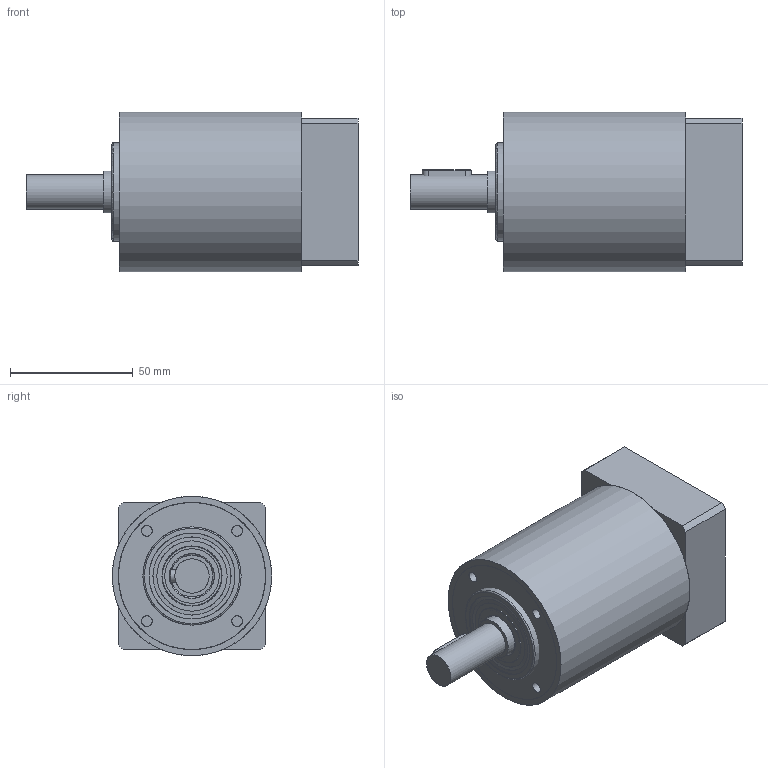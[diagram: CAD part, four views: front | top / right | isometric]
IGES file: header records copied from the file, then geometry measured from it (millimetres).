
Global section: file name: D:\ASSYCONF\WORK_DIRS\TEMP_#8\E00017964713MP040509092319_iges3D.igs; native system: NX V5.0; preprocessor: UGS NX IGES V5.0; date: 20090504.092533; units: millimetre
Bounding box: 135.25 x 65 x 65 mm (x, y, z)
Surface area: 75169.9 mm2 (no closed solid volume)
Topology: 0 solids, 0 shells, 139 faces, 2608 edges, 2532 vertices
Faces by surface type: revolution 89, extrusion 50
